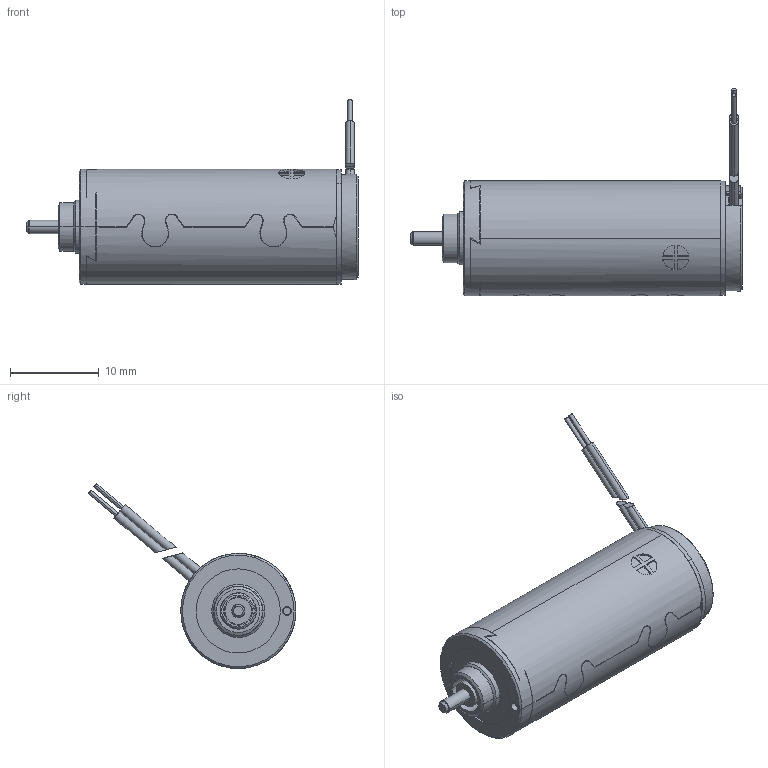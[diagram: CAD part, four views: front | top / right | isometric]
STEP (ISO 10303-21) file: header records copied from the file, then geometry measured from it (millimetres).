
FILE_DESCRIPTION((''),'2;1');
FILE_NAME('201353_RE-MAX13','2016-10-21T',('mmagpetk'),(''),'CREO PARAMETRIC BY PTC INC, 2016050','CREO PARAMETRIC BY PTC INC, 2016050','');
FILE_SCHEMA(('CONFIG_CONTROL_DESIGN'));
Length unit declared in the file: millimetre
Products named in the file (1): 201353_RE-MAX13
Bounding box: 37.5 x 23.45 x 20.89 mm (x, y, z)
Volume: 4187.3 mm3; surface area: 1995.7 mm2
Topology: 3 solids, 3 shells, 209 faces, 536 edges, 345 vertices
Faces by surface type: plane 97, cylinder 79, cone 19, torus 12, bspline 2
Entity records: 9588 total; most frequent: CARTESIAN_POINT 2884, ORIENTED_EDGE 1072, DIRECTION 997, PRESENTATION_STYLE_ASSIGNMENT 538, STYLED_ITEM 538, CURVE_STYLE 536, EDGE_CURVE 536, AXIS2_PLACEMENT_3D 391
